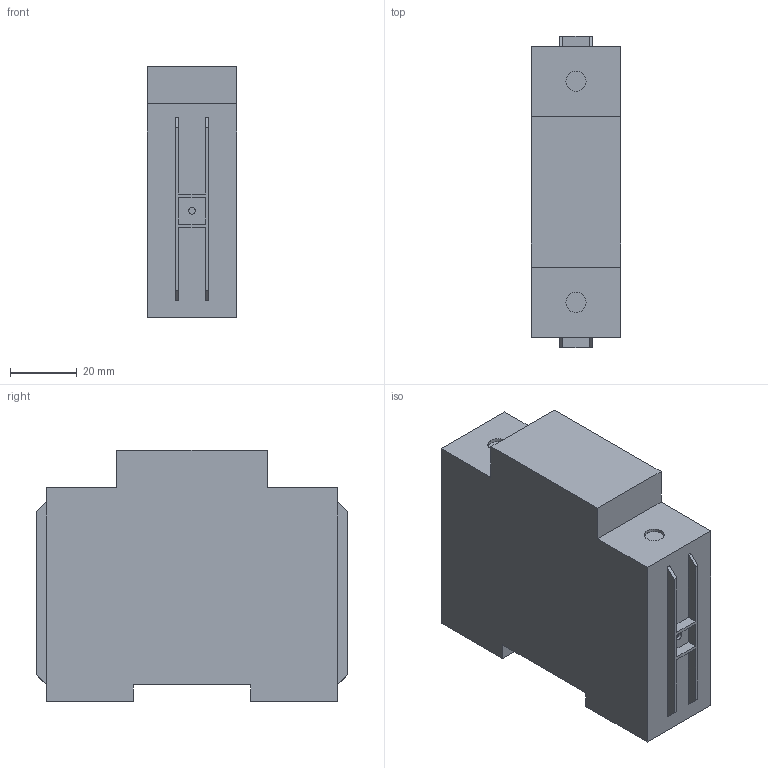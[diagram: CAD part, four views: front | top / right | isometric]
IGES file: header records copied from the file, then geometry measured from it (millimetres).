
Start section:  PTC IGES file: C:\TPO v2\SharedFS\Outgoing\pole_add_022207_ew.igs
Global section: file name: C:\TPO v2\SharedFS\Outgoing\pole_add_022207_ew.igs; native system:  by Parametric Technology Corporation; preprocessor: 2013430; organization: Unknown; date: 20170511.154948; units: millimetre
Bounding box: 26.8 x 93 x 75 mm (x, y, z)
Volume: 158228 mm3; surface area: 22181.8 mm2
Topology: 1 solids, 1 shells, 62 faces, 156 edges, 104 vertices
Faces by surface type: bspline 54, revolution 8
